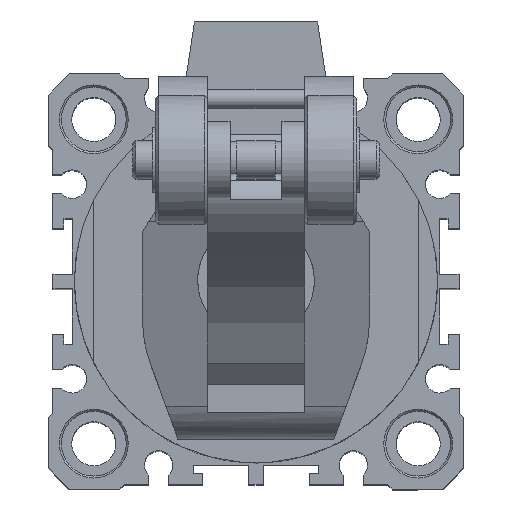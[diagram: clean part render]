
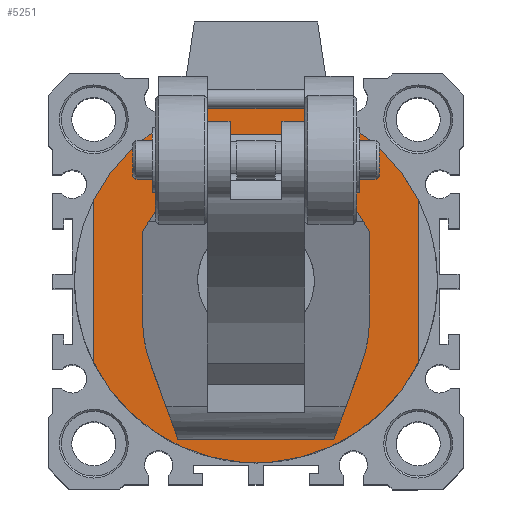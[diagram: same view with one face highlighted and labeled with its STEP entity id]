
A CAD part, top view. The second image highlights one B-rep face of the part: STEP entity #5251.
In plain terms, the highlighted planar face has unit normal (0, 0, 1).
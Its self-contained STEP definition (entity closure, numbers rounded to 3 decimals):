
#5120=CARTESIAN_POINT('',(25.598,14.165,112.));
#5121=VERTEX_POINT('',#5120);
#5128=CARTESIAN_POINT('',(25.598,-11.054,112.));
#5129=VERTEX_POINT('',#5128);
#5130=CARTESIAN_POINT('',(25.598,-11.054,112.));
#5131=DIRECTION('',(0.0,1.0,0.0));
#5132=VECTOR('',#5131,25.219);
#5133=LINE('',#5130,#5132);
#5134=EDGE_CURVE('',#5129,#5121,#5133,.T.);
#5176=CARTESIAN_POINT('',(-24.402,-11.054,112.));
#5177=VERTEX_POINT('',#5176);
#5184=CARTESIAN_POINT('',(-24.402,14.165,112.));
#5185=VERTEX_POINT('',#5184);
#5186=CARTESIAN_POINT('',(-24.402,14.165,112.));
#5187=DIRECTION('',(0.0,-1.0,0.0));
#5188=VECTOR('',#5187,25.219);
#5189=LINE('',#5186,#5188);
#5190=EDGE_CURVE('',#5185,#5177,#5189,.T.);
#5217=CARTESIAN_POINT('',(0.598,24.055,112.));
#5218=DIRECTION('',(0.0,0.0,1.0));
#5219=DIRECTION('',(1.0,0.0,0.0));
#5220=AXIS2_PLACEMENT_3D('',#5217,#5218,#5219);
#5221=PLANE('',#5220);
#5222=ORIENTED_EDGE('',*,*,#5134,.T.);
#5223=CARTESIAN_POINT('',(0.598,1.555,112.));
#5224=DIRECTION('',(0.0,0.0,-1.0));
#5225=DIRECTION('',(0.0,1.0,0.0));
#5226=AXIS2_PLACEMENT_3D('',#5223,#5224,#5225);
#5227=CIRCLE('',#5226,28.);
#5228=EDGE_CURVE('',#5185,#5121,#5227,.T.);
#5229=ORIENTED_EDGE('',*,*,#5228,.F.);
#5230=ORIENTED_EDGE('',*,*,#5190,.T.);
#5231=CARTESIAN_POINT('',(0.598,1.555,112.));
#5232=DIRECTION('',(0.0,0.0,-1.0));
#5233=DIRECTION('',(0.0,1.0,0.0));
#5234=AXIS2_PLACEMENT_3D('',#5231,#5232,#5233);
#5235=CIRCLE('',#5234,28.);
#5236=EDGE_CURVE('',#5129,#5177,#5235,.T.);
#5237=ORIENTED_EDGE('',*,*,#5236,.F.);
#5238=EDGE_LOOP('',(#5222,#5229,#5230,#5237));
#5239=FACE_OUTER_BOUND('',#5238,.T.);
#5240=CARTESIAN_POINT('',(0.598,18.555,112.));
#5241=VERTEX_POINT('',#5240);
#5242=CARTESIAN_POINT('',(0.598,1.555,112.));
#5243=DIRECTION('',(0.0,0.0,-1.0));
#5244=DIRECTION('',(0.0,1.0,0.0));
#5245=AXIS2_PLACEMENT_3D('',#5242,#5243,#5244);
#5246=CIRCLE('',#5245,17.);
#5247=EDGE_CURVE('',#5241,#5241,#5246,.T.);
#5248=ORIENTED_EDGE('',*,*,#5247,.T.);
#5249=EDGE_LOOP('',(#5248));
#5250=FACE_BOUND('',#5249,.T.);
#5251=ADVANCED_FACE('',(#5239,#5250),#5221,.T.);
